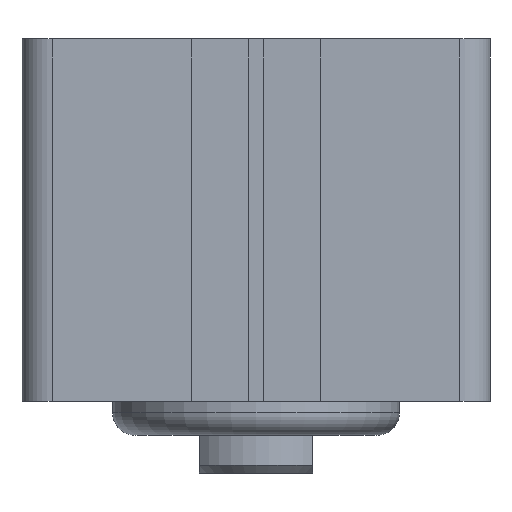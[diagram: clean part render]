
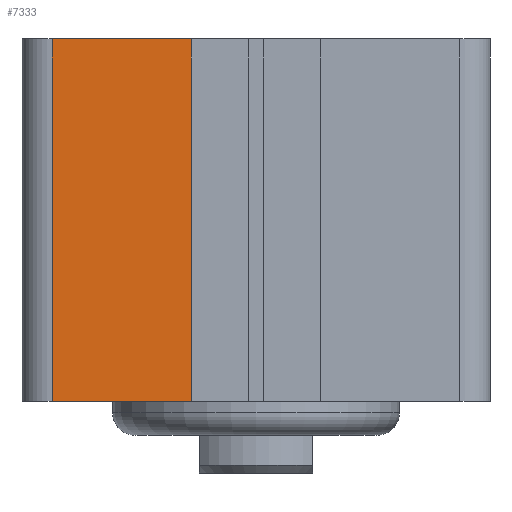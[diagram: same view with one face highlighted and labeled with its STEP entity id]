
A CAD part, front view. The second image highlights one B-rep face of the part: STEP entity #7333.
In plain terms, the highlighted planar face has unit normal (0, -1, 0).
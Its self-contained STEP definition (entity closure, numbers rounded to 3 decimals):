
#834 = AXIS2_PLACEMENT_3D ( 'NONE', #14910, #8993, #10099 ) ;
#1287 = VECTOR ( 'NONE', #3523, 1000. ) ;
#1306 = CARTESIAN_POINT ( 'NONE',  ( -8.6, -31., 0. ) ) ;
#1625 = VECTOR ( 'NONE', #10113, 1000. ) ;
#1938 = EDGE_CURVE ( 'NONE', #13155, #4327, #8337, .T. ) ;
#1963 = EDGE_CURVE ( 'NONE', #4327, #11111, #13562, .T. ) ;
#2358 = LINE ( 'NONE', #6501, #1625 ) ;
#3523 = DIRECTION ( 'NONE',  ( 0., 0., -1. ) ) ;
#3941 = CARTESIAN_POINT ( 'NONE',  ( -27., -31., 0. ) ) ;
#4173 = DIRECTION ( 'NONE',  ( 1., 0., 0. ) ) ;
#4327 = VERTEX_POINT ( 'NONE', #3941 ) ;
#5020 = EDGE_CURVE ( 'NONE', #11425, #11111, #2358, .T. ) ;
#5922 = CARTESIAN_POINT ( 'NONE',  ( 0., -31., 0. ) ) ;
#6445 = CARTESIAN_POINT ( 'NONE',  ( 0., -31., 48. ) ) ;
#6501 = CARTESIAN_POINT ( 'NONE',  ( -8.6, -31., 48. ) ) ;
#6511 = EDGE_LOOP ( 'NONE', ( #8480, #9929, #8459, #14328 ) ) ;
#6647 = PLANE ( 'NONE',  #834 ) ;
#6864 = LINE ( 'NONE', #6445, #14847 ) ;
#7333 = ADVANCED_FACE ( 'NONE', ( #13963 ), #6647, .F. ) ;
#8305 = CARTESIAN_POINT ( 'NONE',  ( -27., -31., 48. ) ) ;
#8337 = LINE ( 'NONE', #8305, #1287 ) ;
#8459 = ORIENTED_EDGE ( 'NONE', *, *, #8794, .F. ) ;
#8480 = ORIENTED_EDGE ( 'NONE', *, *, #1963, .T. ) ;
#8794 = EDGE_CURVE ( 'NONE', #13155, #11425, #6864, .T. ) ;
#8993 = DIRECTION ( 'NONE',  ( 0., 1., 0. ) ) ;
#9613 = DIRECTION ( 'NONE',  ( 1., 0., 0. ) ) ;
#9929 = ORIENTED_EDGE ( 'NONE', *, *, #5020, .F. ) ;
#10099 = DIRECTION ( 'NONE',  ( -1., 0., 0. ) ) ;
#10113 = DIRECTION ( 'NONE',  ( 0., 0., -1. ) ) ;
#11111 = VERTEX_POINT ( 'NONE', #1306 ) ;
#11381 = CARTESIAN_POINT ( 'NONE',  ( -8.6, -31., 48. ) ) ;
#11425 = VERTEX_POINT ( 'NONE', #11381 ) ;
#13155 = VERTEX_POINT ( 'NONE', #15077 ) ;
#13562 = LINE ( 'NONE', #5922, #14682 ) ;
#13963 = FACE_OUTER_BOUND ( 'NONE', #6511, .T. ) ;
#14328 = ORIENTED_EDGE ( 'NONE', *, *, #1938, .T. ) ;
#14682 = VECTOR ( 'NONE', #9613, 1000. ) ;
#14847 = VECTOR ( 'NONE', #4173, 1000. ) ;
#14910 = CARTESIAN_POINT ( 'NONE',  ( 0., -31., 48. ) ) ;
#15077 = CARTESIAN_POINT ( 'NONE',  ( -27., -31., 48. ) ) ;
